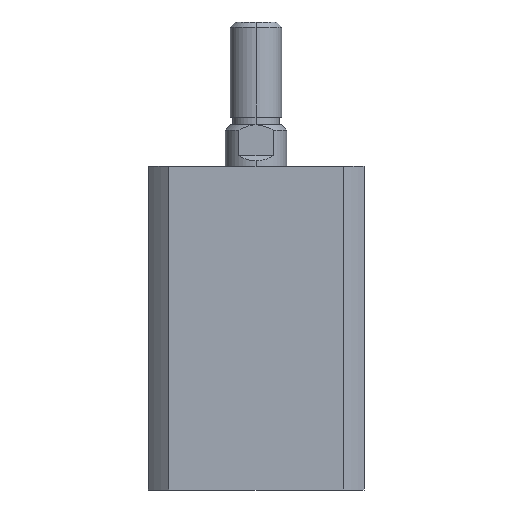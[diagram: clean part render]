
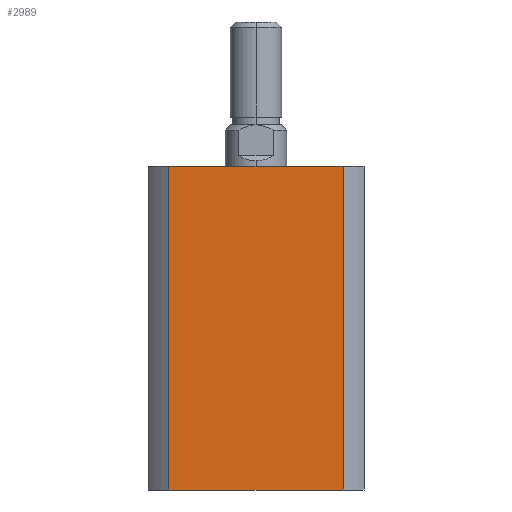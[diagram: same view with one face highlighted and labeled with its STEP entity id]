
A CAD part, left-side view. The second image highlights one B-rep face of the part: STEP entity #2989.
In plain terms, the highlighted planar face has unit normal (-1, 0, 0).
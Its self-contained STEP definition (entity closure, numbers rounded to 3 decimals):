
#8 = CARTESIAN_POINT ( 'NONE',  ( -21., -16.971, 63. ) ) ;
#146 = CARTESIAN_POINT ( 'NONE',  ( -21., -16.971, 0. ) ) ;
#149 = CARTESIAN_POINT ( 'NONE',  ( -21., 16.971, 63. ) ) ;
#155 = CARTESIAN_POINT ( 'NONE',  ( -21., 16.971, 0. ) ) ;
#610 = DIRECTION ( 'NONE',  ( 0., 0., 1. ) ) ;
#623 = CARTESIAN_POINT ( 'NONE',  ( -21., 16.971, 63. ) ) ;
#763 = CARTESIAN_POINT ( 'NONE',  ( -21., -16.971, 63. ) ) ;
#771 = DIRECTION ( 'NONE',  ( 0., 0., -1. ) ) ;
#1679 = ORIENTED_EDGE ( 'NONE', *, *, #2784, .F. ) ;
#1680 = ORIENTED_EDGE ( 'NONE', *, *, #2768, .F. ) ;
#1681 = ORIENTED_EDGE ( 'NONE', *, *, #2799, .F. ) ;
#1682 = ORIENTED_EDGE ( 'NONE', *, *, #2930, .T. ) ;
#1770 = VECTOR ( 'NONE', #4255, 1000. ) ;
#1772 = LINE ( 'NONE', #4262, #1770 ) ;
#1981 = LINE ( 'NONE', #623, #1986 ) ;
#1986 = VECTOR ( 'NONE', #610, 1000. ) ;
#1999 = VECTOR ( 'NONE', #771, 1000. ) ;
#2015 = LINE ( 'NONE', #763, #1999 ) ;
#2152 = VECTOR ( 'NONE', #3202, 1000. ) ;
#2223 = LINE ( 'NONE', #3193, #2152 ) ;
#2606 = DIRECTION ( 'NONE',  ( 0., 1., 0. ) ) ;
#2614 = DIRECTION ( 'NONE',  ( 1., 0., 0. ) ) ;
#2651 = PLANE ( 'NONE',  #3934 ) ;
#2667 = CARTESIAN_POINT ( 'NONE',  ( -21., 21., 63. ) ) ;
#2768 = EDGE_CURVE ( 'NONE', #4825, #4930, #2223, .T. ) ;
#2784 = EDGE_CURVE ( 'NONE', #4930, #4828, #2015, .T. ) ;
#2799 = EDGE_CURVE ( 'NONE', #4819, #4825, #1981, .T. ) ;
#2930 = EDGE_CURVE ( 'NONE', #4819, #4828, #1772, .T. ) ;
#2989 = ADVANCED_FACE ( 'NONE', ( #4238 ), #2651, .F. ) ;
#3193 = CARTESIAN_POINT ( 'NONE',  ( -21., 21., 63. ) ) ;
#3202 = DIRECTION ( 'NONE',  ( 0., -1., 0. ) ) ;
#3934 = AXIS2_PLACEMENT_3D ( 'NONE', #2667, #2614, #2606 ) ;
#4238 = FACE_OUTER_BOUND ( 'NONE', #5015, .T. ) ;
#4255 = DIRECTION ( 'NONE',  ( 0., -1., 0. ) ) ;
#4262 = CARTESIAN_POINT ( 'NONE',  ( -21., 21., 0. ) ) ;
#4819 = VERTEX_POINT ( 'NONE', #155 ) ;
#4825 = VERTEX_POINT ( 'NONE', #149 ) ;
#4828 = VERTEX_POINT ( 'NONE', #146 ) ;
#4930 = VERTEX_POINT ( 'NONE', #8 ) ;
#5015 = EDGE_LOOP ( 'NONE', ( #1679, #1680, #1681, #1682 ) ) ;
